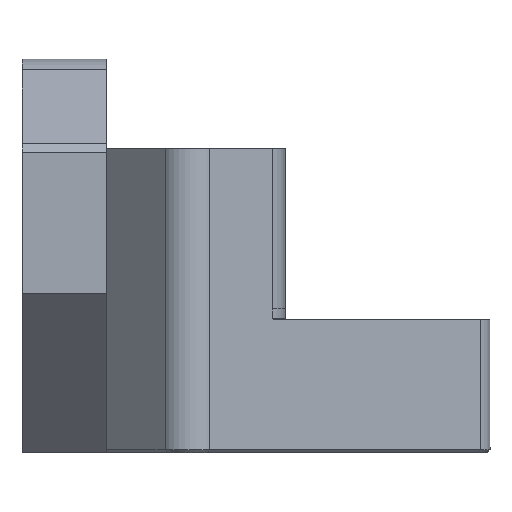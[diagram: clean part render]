
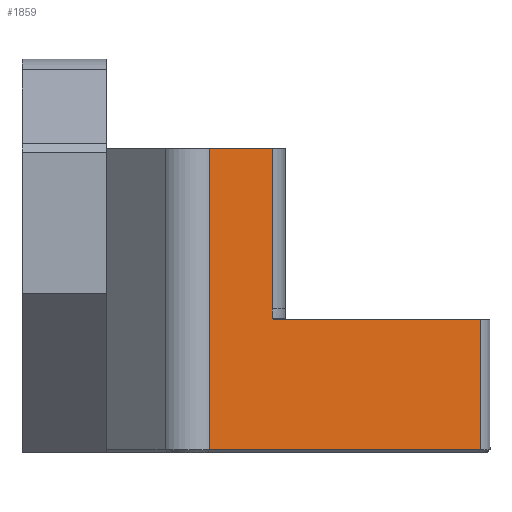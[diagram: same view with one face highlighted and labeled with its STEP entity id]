
A CAD part, left-side view. The second image highlights one B-rep face of the part: STEP entity #1859.
In plain terms, the highlighted planar face has unit normal (-0.707, -0.707, 0).
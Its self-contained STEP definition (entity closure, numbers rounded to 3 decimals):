
#234=FACE_OUTER_BOUND('',#344,.T.);
#344=EDGE_LOOP('',(#1459,#1460,#1461,#1462,#1463,#1464,#1465,#1466,#1467));
#493=LINE('',#3606,#661);
#515=LINE('',#3667,#683);
#521=LINE('',#3683,#689);
#522=LINE('',#3686,#690);
#523=LINE('',#3688,#691);
#524=LINE('',#3690,#692);
#525=LINE('',#3692,#693);
#526=LINE('',#3694,#694);
#527=LINE('',#3695,#695);
#661=VECTOR('',#2239,10.);
#683=VECTOR('',#2295,10.);
#689=VECTOR('',#2313,10.);
#690=VECTOR('',#2318,10.);
#691=VECTOR('',#2319,10.);
#692=VECTOR('',#2320,10.);
#693=VECTOR('',#2321,10.);
#694=VECTOR('',#2322,10.);
#695=VECTOR('',#2323,10.);
#857=VERTEX_POINT('',#3603);
#858=VERTEX_POINT('',#3605);
#877=VERTEX_POINT('',#3657);
#879=VERTEX_POINT('',#3663);
#884=VERTEX_POINT('',#3682);
#885=VERTEX_POINT('',#3687);
#886=VERTEX_POINT('',#3689);
#887=VERTEX_POINT('',#3691);
#888=VERTEX_POINT('',#3693);
#1069=EDGE_CURVE('',#858,#857,#493,.F.);
#1100=EDGE_CURVE('',#877,#879,#515,.T.);
#1108=EDGE_CURVE('',#879,#884,#521,.T.);
#1110=EDGE_CURVE('',#858,#877,#522,.T.);
#1111=EDGE_CURVE('',#857,#885,#523,.T.);
#1112=EDGE_CURVE('',#885,#886,#524,.T.);
#1113=EDGE_CURVE('',#887,#886,#525,.T.);
#1114=EDGE_CURVE('',#888,#887,#526,.T.);
#1115=EDGE_CURVE('',#884,#888,#527,.T.);
#1459=ORIENTED_EDGE('',*,*,#1100,.F.);
#1460=ORIENTED_EDGE('',*,*,#1110,.F.);
#1461=ORIENTED_EDGE('',*,*,#1069,.T.);
#1462=ORIENTED_EDGE('',*,*,#1111,.T.);
#1463=ORIENTED_EDGE('',*,*,#1112,.T.);
#1464=ORIENTED_EDGE('',*,*,#1113,.F.);
#1465=ORIENTED_EDGE('',*,*,#1114,.F.);
#1466=ORIENTED_EDGE('',*,*,#1115,.F.);
#1467=ORIENTED_EDGE('',*,*,#1108,.F.);
#1789=PLANE('',#1995);
#1859=ADVANCED_FACE('',(#234),#1789,.T.);
#1995=AXIS2_PLACEMENT_3D('',#3685,#2316,#2317);
#2239=DIRECTION('',(0.707,-0.707,0.));
#2295=DIRECTION('',(-0.707,0.707,0.));
#2313=DIRECTION('',(0.,0.,1.));
#2316=DIRECTION('center_axis',(-0.707,-0.707,0.));
#2317=DIRECTION('ref_axis',(0.707,-0.707,0.));
#2318=DIRECTION('',(0.,0.,-1.));
#2319=DIRECTION('',(0.,0.,1.));
#2320=DIRECTION('',(-0.707,0.707,0.));
#2321=DIRECTION('',(0.,0.,-1.));
#2322=DIRECTION('',(0.,0.,-1.));
#2323=DIRECTION('',(0.707,-0.707,0.));
#3603=CARTESIAN_POINT('',(8.88,40.192,-20.17));
#3605=CARTESIAN_POINT('',(22.898,26.174,-20.17));
#3606=CARTESIAN_POINT('',(9.553,39.519,-20.17));
#3657=CARTESIAN_POINT('',(22.898,26.174,-28.97));
#3663=CARTESIAN_POINT('',(4.55,44.522,-28.97));
#3667=CARTESIAN_POINT('',(10.867,38.206,-28.97));
#3682=CARTESIAN_POINT('',(4.55,44.522,-8.582));
#3683=CARTESIAN_POINT('',(4.55,44.522,-17.82));
#3685=CARTESIAN_POINT('Origin',(4.55,44.522,-28.87));
#3686=CARTESIAN_POINT('',(22.898,26.174,-27.223));
#3687=CARTESIAN_POINT('',(8.88,40.192,-20.07));
#3688=CARTESIAN_POINT('',(8.88,40.192,-19.27));
#3689=CARTESIAN_POINT('',(8.775,40.298,-20.07));
#3690=CARTESIAN_POINT('',(6.651,42.421,-20.07));
#3691=CARTESIAN_POINT('',(8.775,40.298,-19.42));
#3692=CARTESIAN_POINT('',(8.775,40.298,-19.42));
#3693=CARTESIAN_POINT('',(8.775,40.298,-8.582));
#3694=CARTESIAN_POINT('',(8.775,40.298,-23.598));
#3695=CARTESIAN_POINT('',(10.867,38.206,-8.582));
